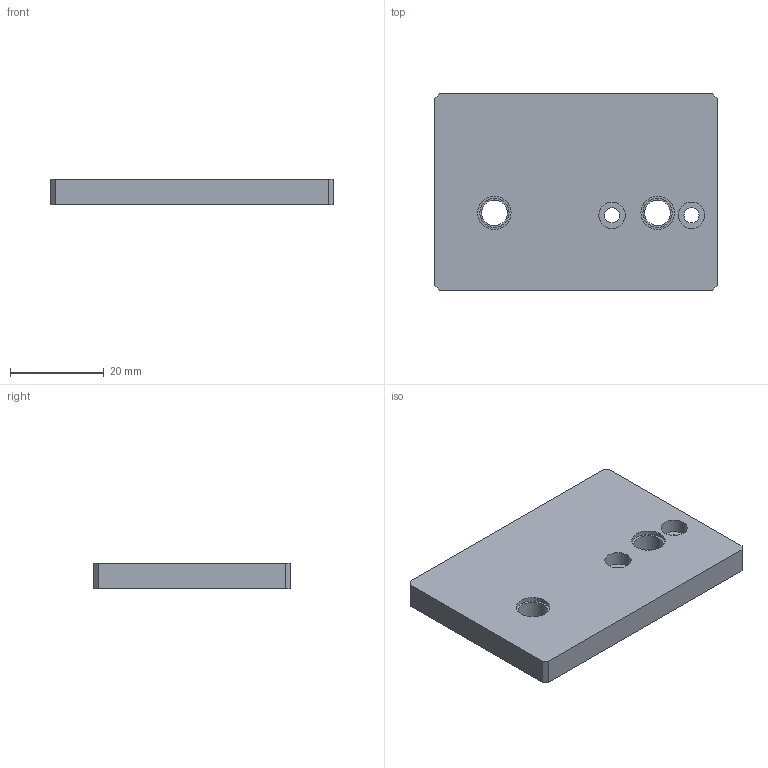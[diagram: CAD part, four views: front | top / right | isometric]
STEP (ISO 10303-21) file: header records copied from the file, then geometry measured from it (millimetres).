
FILE_DESCRIPTION(/* description */ ('','CAx-IF Rec.Pracs.---Representation and Presentation of Product Manufacturing Information (PMI)---4.0---2014-10-13'),/* implementation_level */ '2;1');
FILE_NAME(/* name */ 'Chain-Adapter.step',/* time_stamp */ '2025-03-19T09:44:33-05:00',/* author */ (''),/* organization */ (''),/* preprocessor_version */ 'ST-DEVELOPER v20',/* originating_system */ 'Autodesk Translation Framework v13.20.0.188',/* authorisation */ '');
FILE_SCHEMA (('AP242_MANAGED_MODEL_BASED_3D_ENGINEERING_MIM_LF { 1 0 10303 442 1 1 4 }'));
Length unit declared in the file: millimetre
Products named in the file (1): Chain-Adapter
Bounding box: 60.4 x 42 x 5.54 mm (x, y, z)
Volume: 13507.6 mm3; surface area: 6439.1 mm2
Topology: 1 solids, 1 shells, 26 faces, 54 edges, 36 vertices
Faces by surface type: plane 16, cylinder 10
Full cylindrical faces by diameter (mm): 3.25 x2, 5.5 x2, 5.65 x2, 6.25 x2, 7.15 x2
Entity records: 754 total; most frequent: DIRECTION 128, CARTESIAN_POINT 117, ORIENTED_EDGE 108, EDGE_CURVE 54, AXIS2_PLACEMENT_3D 47, EDGE_LOOP 40, VERTEX_POINT 36, LINE 34
